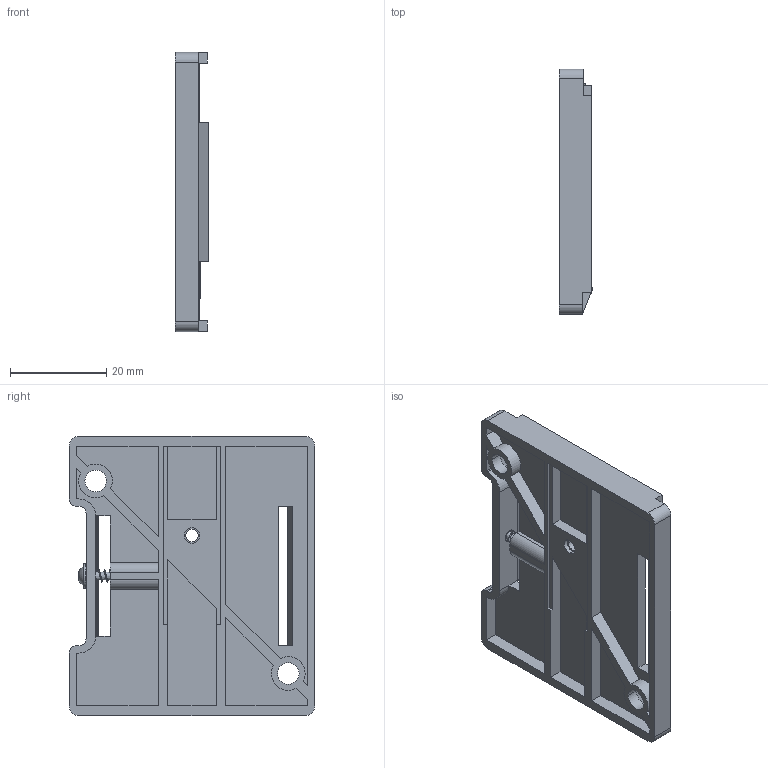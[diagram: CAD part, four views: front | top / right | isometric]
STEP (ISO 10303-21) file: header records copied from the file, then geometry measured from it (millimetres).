
FILE_DESCRIPTION((''),'2;1');
FILE_NAME('0000205569_ASM','2018-12-06T',('11000600'),(''),'CREO PARAMETRIC BY PTC INC, 2017480','CREO PARAMETRIC BY PTC INC, 2017480','');
FILE_SCHEMA(('AUTOMOTIVE_DESIGN { 1 0 10303 214 1 1 1 1 }'));
Length unit declared in the file: millimetre
Products named in the file (3): 0000126024; 0000205423; 0000205569_ASM
Assembly tree (2 placements, depth 2):
  0000205569_ASM
    0000126024
    0000205423
Bounding box: 6.99 x 51 x 58 mm (x, y, z)
Volume: 8699.5 mm3; surface area: 9026.1 mm2
Topology: 1 solids, 2 shells, 359 faces, 951 edges, 615 vertices
Faces by surface type: plane 195, cylinder 64, extrusion 36, bspline 36, cone 16, torus 8, sphere 4
Entity records: 27531 total; most frequent: CARTESIAN_POINT 14177, ORIENTED_EDGE 1860, DIRECTION 1488, PRESENTATION_STYLE_ASSIGNMENT 949, STYLED_ITEM 949, CURVE_STYLE 947, EDGE_CURVE 947, VECTOR 648
